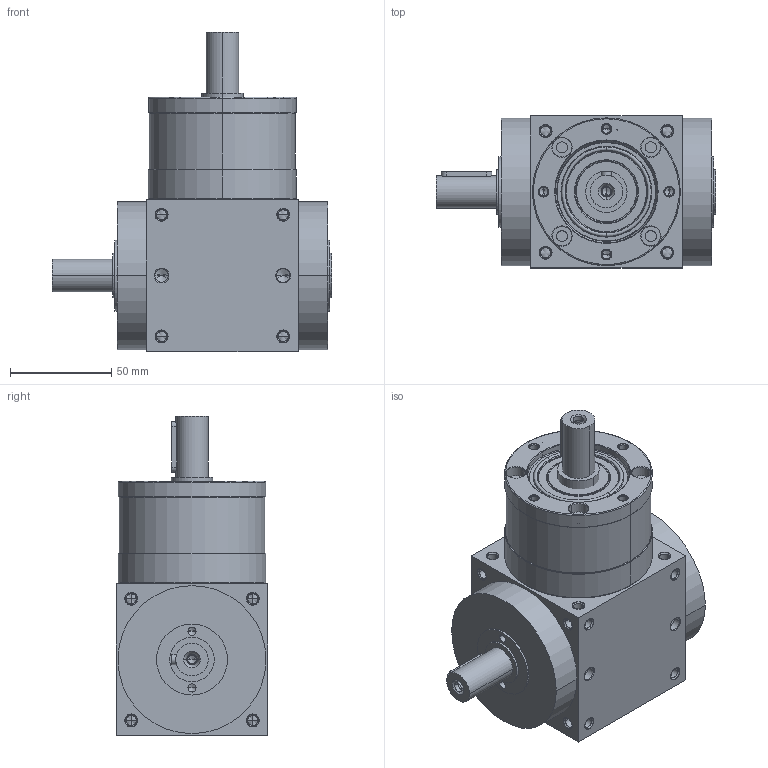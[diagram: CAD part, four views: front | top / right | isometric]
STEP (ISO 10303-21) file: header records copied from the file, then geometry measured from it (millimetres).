
FILE_DESCRIPTION((''),'2;1');
FILE_NAME('ATB075L1-1_ASM','2014-07-18T',('D00080'),(''),'PRO/ENGINEER BY PARAMETRIC TECHNOLOGY CORPORATION, 2008170','PRO/ENGINEER BY PARAMETRIC TECHNOLOGY CORPORATION, 2008170','');
FILE_SCHEMA(('CONFIG_CONTROL_DESIGN'));
Length unit declared in the file: millimetre
Products named in the file (4): ATBL1-HOUSING-1-3; P1820300001; 22400071003; ATB075L1-1_ASM
Assembly tree (3 placements, depth 2):
  ATB075L1-1_ASM
    ATBL1-HOUSING-1-3
    P1820300001
    22400071003
Bounding box: 138 x 75 x 157.5 mm (x, y, z)
Volume: 687463.5 mm3; surface area: 95620.8 mm2
Topology: 4 solids, 34 shells, 554 faces, 1400 edges, 831 vertices
Faces by surface type: cylinder 258, cone 186, plane 72, torus 34, bspline 4
Entity records: 17043 total; most frequent: CARTESIAN_POINT 3837, DIRECTION 2940, ORIENTED_EDGE 2532, EDGE_CURVE 1326, AXIS2_PLACEMENT_3D 1233, VERTEX_POINT 831, CIRCLE 672, EDGE_LOOP 649
